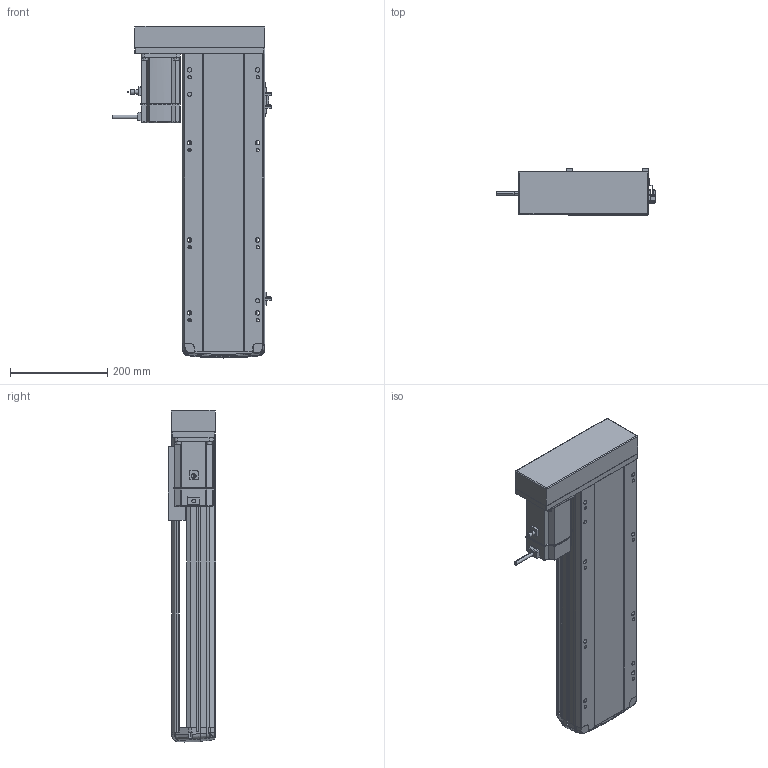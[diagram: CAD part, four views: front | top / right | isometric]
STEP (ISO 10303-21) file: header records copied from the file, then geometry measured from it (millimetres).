
FILE_DESCRIPTION (( 'STEP AP214' ), '1' );
FILE_NAME ('RTH17-XX-400-R-M75-C4.STEP', '2025-10-24T10:15:05', ( '' ), ( '' ), 'SwSTEP 2.0', 'SolidWorks 2018', '' );
FILE_SCHEMA (( 'AUTOMOTIVE_DESIGN' ));
Length unit declared in the file: millimetre
Products named in the file (10): N_OMRON EE-SX672 換覜ん^RTH17-XX-XX-R-M75-C4ㄗ源最宒ㄘ; N_RTH17-M-007上盖^RTH17-XX-XX-R-M75-C4（方程式）; RTH17-XX-400-R-M75-C4; N_RTH17-GY-001P^RTH17-XX-XX-R-M75-C4（方程式）; N_RTH17-L-008-P75电机安装板左转折^RTH17-XX-XX-R-M75-C4（方程式）; N_RTH17-M-011底座^RTH17-XX-XX-R-M75-C4（方程式）; N_RTH17-E-004丝杆螺母连接座^RTH17-XX-XX-R-M75-C4（方程式）; N_M75^RTH17-XX-XX-R-M75-C4（方程式）; N_RTH-L-012 感应片(外置)^RTH17-XX-XX-R-M75-C4（方程式）; N_RTH17-L-018盖子^RTH17-XX-XX-R-M75-C4（方程式）
Assembly tree (11 placements, depth 2):
  RTH17-XX-400-R-M75-C4
    N_RTH17-M-011底座^RTH17-XX-XX-R-M75-C4（方程式）
    N_RTH17-M-007上盖^RTH17-XX-XX-R-M75-C4（方程式）
    N_M75^RTH17-XX-XX-R-M75-C4（方程式）
    N_OMRON EE-SX672 換覜ん^RTH17-XX-XX-R-M75-C4ㄗ源最宒ㄘ  x3
    N_RTH-L-012 感应片(外置)^RTH17-XX-XX-R-M75-C4（方程式）
    N_RTH17-L-008-P75电机安装板左转折^RTH17-XX-XX-R-M75-C4（方程式）
    N_RTH17-L-018盖子^RTH17-XX-XX-R-M75-C4（方程式）
    N_RTH17-E-004丝杆螺母连接座^RTH17-XX-XX-R-M75-C4（方程式）
    N_RTH17-GY-001P^RTH17-XX-XX-R-M75-C4（方程式）
Bounding box: 326.2 x 97 x 683.07 mm (x, y, z)
Volume: 7101982.9 mm3; surface area: 892389.4 mm2
Topology: 13 solids, 15 shells, 1725 faces, 4727 edges, 3058 vertices
Faces by surface type: plane 829, cylinder 482, bspline 377, cone 28, torus 9
Entity records: 49821 total; most frequent: CARTESIAN_POINT 19987, ORIENTED_EDGE 6478, DIRECTION 5383, EDGE_CURVE 3243, VERTEX_POINT 2094, AXIS2_PLACEMENT_3D 1801, LINE 1781, VECTOR 1781
